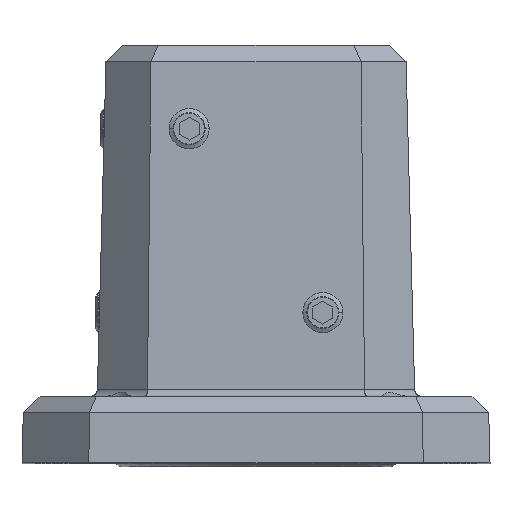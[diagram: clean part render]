
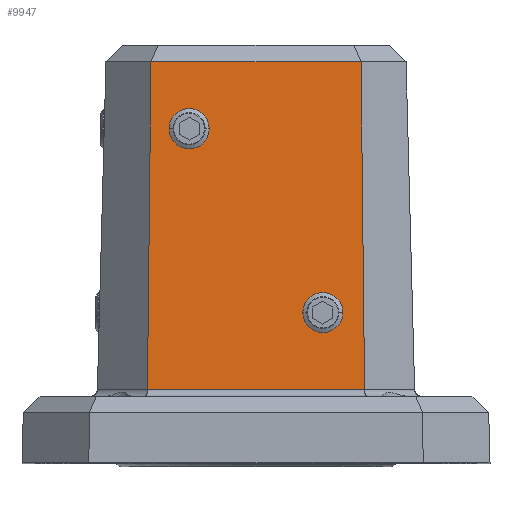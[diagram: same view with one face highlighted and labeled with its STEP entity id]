
A CAD part, top view. The second image highlights one B-rep face of the part: STEP entity #9947.
In plain terms, the highlighted planar face has unit normal (0, 0.026, 1).
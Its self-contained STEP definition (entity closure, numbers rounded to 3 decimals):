
#5056=DIRECTION('',(-0.011,1.,-0.026));
#5057=VECTOR('',#5056,98.092);
#5058=CARTESIAN_POINT('',(32.479,21.948,47.449));
#5059=LINE('',#5058,#5057);
#5070=DIRECTION('',(1.,0.,0.));
#5071=VECTOR('',#5070,64.958);
#5072=CARTESIAN_POINT('',(-32.479,21.948,47.449));
#5073=LINE('',#5072,#5071);
#5077=DIRECTION('',(0.011,1.,-0.026));
#5078=VECTOR('',#5077,98.092);
#5079=CARTESIAN_POINT('',(-32.479,21.948,47.449));
#5080=LINE('',#5079,#5078);
#5084=DIRECTION('',(1.,0.,0.));
#5085=VECTOR('',#5084,62.831);
#5086=CARTESIAN_POINT('',(-31.415,120.,44.881));
#5087=LINE('',#5086,#5085);
#5091=CARTESIAN_POINT('',(-25.1,100.,45.405));
#5092=CARTESIAN_POINT('',(-25.1,99.399,45.421));
#5093=CARTESIAN_POINT('',(-24.882,98.101,45.455));
#5094=CARTESIAN_POINT('',(-23.713,96.286,45.502));
#5095=CARTESIAN_POINT('',(-22.205,95.313,45.528));
#5096=CARTESIAN_POINT('',(-20.921,94.954,45.537));
#5097=CARTESIAN_POINT('',(-20.,94.873,45.539));
#5098=CARTESIAN_POINT('',(-19.079,94.954,45.537));
#5099=CARTESIAN_POINT('',(-17.795,95.313,45.528));
#5100=CARTESIAN_POINT('',(-16.287,96.286,45.502));
#5101=CARTESIAN_POINT('',(-15.118,98.101,45.455));
#5102=CARTESIAN_POINT('',(-14.9,99.399,45.421));
#5103=CARTESIAN_POINT('',(-14.9,100.,45.405));
#5108=CARTESIAN_POINT('',(-14.9,100.,45.405));
#5109=CARTESIAN_POINT('',(-14.9,100.601,45.389));
#5110=CARTESIAN_POINT('',(-15.118,101.899,45.355));
#5111=CARTESIAN_POINT('',(-16.287,103.714,45.308));
#5112=CARTESIAN_POINT('',(-17.795,104.687,45.282));
#5113=CARTESIAN_POINT('',(-19.079,105.046,45.273));
#5114=CARTESIAN_POINT('',(-20.,105.127,45.271));
#5115=CARTESIAN_POINT('',(-20.921,105.046,45.273));
#5116=CARTESIAN_POINT('',(-22.205,104.687,45.282));
#5117=CARTESIAN_POINT('',(-23.713,103.714,45.308));
#5118=CARTESIAN_POINT('',(-24.882,101.899,45.355));
#5119=CARTESIAN_POINT('',(-25.1,100.601,45.389));
#5120=CARTESIAN_POINT('',(-25.1,100.,45.405));
#5125=CARTESIAN_POINT('',(14.9,45.,46.845));
#5126=CARTESIAN_POINT('',(14.9,44.399,46.861));
#5127=CARTESIAN_POINT('',(15.118,43.101,46.895));
#5128=CARTESIAN_POINT('',(16.287,41.286,46.943));
#5129=CARTESIAN_POINT('',(17.795,40.313,46.968));
#5130=CARTESIAN_POINT('',(19.079,39.954,46.977));
#5131=CARTESIAN_POINT('',(20.,39.873,46.98));
#5132=CARTESIAN_POINT('',(20.921,39.954,46.977));
#5133=CARTESIAN_POINT('',(22.205,40.313,46.968));
#5134=CARTESIAN_POINT('',(23.713,41.286,46.943));
#5135=CARTESIAN_POINT('',(24.882,43.101,46.895));
#5136=CARTESIAN_POINT('',(25.1,44.399,46.861));
#5137=CARTESIAN_POINT('',(25.1,45.,46.845));
#5142=CARTESIAN_POINT('',(25.1,45.,46.845));
#5143=CARTESIAN_POINT('',(25.1,45.601,46.83));
#5144=CARTESIAN_POINT('',(24.882,46.899,46.796));
#5145=CARTESIAN_POINT('',(23.713,48.714,46.748));
#5146=CARTESIAN_POINT('',(22.205,49.687,46.723));
#5147=CARTESIAN_POINT('',(20.921,50.046,46.713));
#5148=CARTESIAN_POINT('',(20.,50.127,46.711));
#5149=CARTESIAN_POINT('',(19.079,50.046,46.713));
#5150=CARTESIAN_POINT('',(17.795,49.687,46.723));
#5151=CARTESIAN_POINT('',(16.287,48.714,46.748));
#5152=CARTESIAN_POINT('',(15.118,46.899,46.796));
#5153=CARTESIAN_POINT('',(14.9,45.601,46.83));
#5154=CARTESIAN_POINT('',(14.9,45.,46.845));
#6021=CARTESIAN_POINT('',(-31.415,120.,44.881));
#6022=VERTEX_POINT('',#6021);
#6023=CARTESIAN_POINT('',(31.415,120.,44.881));
#6024=VERTEX_POINT('',#6023);
#6104=CARTESIAN_POINT('',(-32.479,21.948,47.449));
#6105=CARTESIAN_POINT('',(32.479,21.948,47.449));
#6106=VERTEX_POINT('',#6104);
#6107=VERTEX_POINT('',#6105);
#6184=VERTEX_POINT('',#5091);
#6185=VERTEX_POINT('',#5103);
#6188=VERTEX_POINT('',#5125);
#6189=VERTEX_POINT('',#5137);
#9921=CARTESIAN_POINT('',(-36.31,20.,47.5));
#9922=DIRECTION('',(0.,0.026,1.));
#9923=DIRECTION('',(1.,0.,0.));
#9924=AXIS2_PLACEMENT_3D('',#9921,#9922,#9923);
#9925=PLANE('',#9924);
#9927=ORIENTED_EDGE('',*,*,#9926,.F.);
#9929=ORIENTED_EDGE('',*,*,#9928,.T.);
#9931=ORIENTED_EDGE('',*,*,#9930,.T.);
#9932=ORIENTED_EDGE('',*,*,#9913,.F.);
#9933=EDGE_LOOP('',(#9927,#9929,#9931,#9932));
#9934=FACE_OUTER_BOUND('',#9933,.F.);
#9936=ORIENTED_EDGE('',*,*,#9935,.T.);
#9938=ORIENTED_EDGE('',*,*,#9937,.T.);
#9939=EDGE_LOOP('',(#9936,#9938));
#9940=FACE_BOUND('',#9939,.F.);
#9942=ORIENTED_EDGE('',*,*,#9941,.T.);
#9944=ORIENTED_EDGE('',*,*,#9943,.T.);
#9945=EDGE_LOOP('',(#9942,#9944));
#9946=FACE_BOUND('',#9945,.F.);
#5104=B_SPLINE_CURVE_WITH_KNOTS('',3,(#5091,#5092,#5093,#5094,#5095,#5096,#5097,
#5098,#5099,#5100,#5101,#5102,#5103),.UNSPECIFIED.,.F.,.F.,(4,1,1,1,1,1,1,1,1,1,
4),(0.,0.125,0.25,0.375,0.438,0.5,0.563,0.625,0.75,0.875,
1.),.UNSPECIFIED.);
#5121=B_SPLINE_CURVE_WITH_KNOTS('',3,(#5108,#5109,#5110,#5111,#5112,#5113,#5114,
#5115,#5116,#5117,#5118,#5119,#5120),.UNSPECIFIED.,.F.,.F.,(4,1,1,1,1,1,1,1,1,1,
4),(0.,0.125,0.25,0.375,0.438,0.5,0.563,0.625,0.75,0.875,
1.),.UNSPECIFIED.);
#5138=B_SPLINE_CURVE_WITH_KNOTS('',3,(#5125,#5126,#5127,#5128,#5129,#5130,#5131,
#5132,#5133,#5134,#5135,#5136,#5137),.UNSPECIFIED.,.F.,.F.,(4,1,1,1,1,1,1,1,1,1,
4),(0.,0.125,0.25,0.375,0.438,0.5,0.563,0.625,0.75,0.875,
1.),.UNSPECIFIED.);
#5155=B_SPLINE_CURVE_WITH_KNOTS('',3,(#5142,#5143,#5144,#5145,#5146,#5147,#5148,
#5149,#5150,#5151,#5152,#5153,#5154),.UNSPECIFIED.,.F.,.F.,(4,1,1,1,1,1,1,1,1,1,
4),(0.,0.125,0.25,0.375,0.438,0.5,0.563,0.625,0.75,0.875,
1.),.UNSPECIFIED.);
#9913=EDGE_CURVE('',#6107,#6024,#5059,.T.);
#9926=EDGE_CURVE('',#6106,#6107,#5073,.T.);
#9928=EDGE_CURVE('',#6106,#6022,#5080,.T.);
#9930=EDGE_CURVE('',#6022,#6024,#5087,.T.);
#9935=EDGE_CURVE('',#6184,#6185,#5104,.T.);
#9937=EDGE_CURVE('',#6185,#6184,#5121,.T.);
#9941=EDGE_CURVE('',#6188,#6189,#5138,.T.);
#9943=EDGE_CURVE('',#6189,#6188,#5155,.T.);
#9947=ADVANCED_FACE('',(#9934,#9940,#9946),#9925,.T.);
